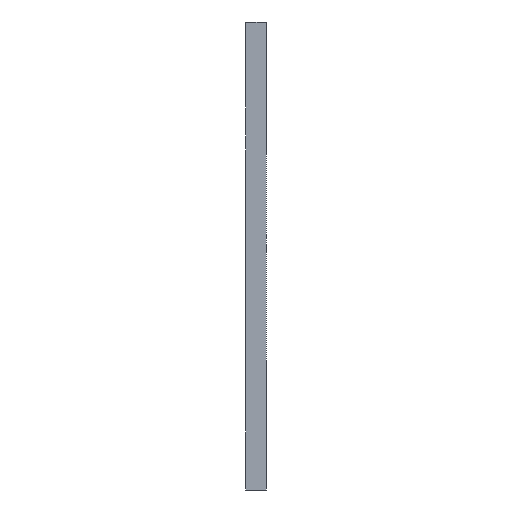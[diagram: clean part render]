
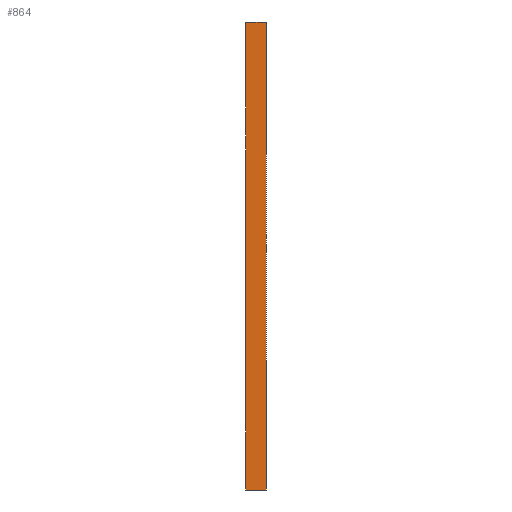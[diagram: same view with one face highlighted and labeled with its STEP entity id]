
A CAD part, left-side view. The second image highlights one B-rep face of the part: STEP entity #864.
In plain terms, the highlighted planar face has unit normal (-1, 0, 0).
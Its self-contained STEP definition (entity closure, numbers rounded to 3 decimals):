
#4 = VERTEX_POINT ( 'NONE', #998 ) ;
#16 = PLANE ( 'NONE',  #42 ) ;
#25 = DIRECTION ( 'NONE',  ( 0., 0., 1. ) ) ;
#42 = AXIS2_PLACEMENT_3D ( 'NONE', #361, #378, #25 ) ;
#85 = EDGE_CURVE ( 'NONE', #4, #1118, #742, .T. ) ;
#130 = EDGE_CURVE ( 'NONE', #415, #1118, #503, .T. ) ;
#135 = DIRECTION ( 'NONE',  ( 0., 0., 1. ) ) ;
#180 = CARTESIAN_POINT ( 'NONE',  ( -305.5, 0., -434. ) ) ;
#183 = VECTOR ( 'NONE', #1015, 1000. ) ;
#188 = LINE ( 'NONE', #543, #763 ) ;
#264 = CARTESIAN_POINT ( 'NONE',  ( -305.5, -20., -434. ) ) ;
#295 = EDGE_CURVE ( 'NONE', #357, #415, #526, .T. ) ;
#300 = ORIENTED_EDGE ( 'NONE', *, *, #130, .F. ) ;
#319 = ORIENTED_EDGE ( 'NONE', *, *, #85, .T. ) ;
#356 = CARTESIAN_POINT ( 'NONE',  ( -305.5, -20., -434. ) ) ;
#357 = VERTEX_POINT ( 'NONE', #356 ) ;
#361 = CARTESIAN_POINT ( 'NONE',  ( -305.5, -20., -434. ) ) ;
#374 = EDGE_CURVE ( 'NONE', #357, #4, #188, .T. ) ;
#378 = DIRECTION ( 'NONE',  ( -1., 0., 0. ) ) ;
#402 = CARTESIAN_POINT ( 'NONE',  ( -305.5, 0., -434. ) ) ;
#415 = VERTEX_POINT ( 'NONE', #180 ) ;
#503 = LINE ( 'NONE', #402, #924 ) ;
#526 = LINE ( 'NONE', #264, #1102 ) ;
#543 = CARTESIAN_POINT ( 'NONE',  ( -305.5, -20., -434. ) ) ;
#552 = ORIENTED_EDGE ( 'NONE', *, *, #295, .F. ) ;
#635 = FACE_OUTER_BOUND ( 'NONE', #1130, .T. ) ;
#726 = CARTESIAN_POINT ( 'NONE',  ( -305.5, 0., 30. ) ) ;
#742 = LINE ( 'NONE', #1086, #183 ) ;
#763 = VECTOR ( 'NONE', #796, 1000. ) ;
#790 = DIRECTION ( 'NONE',  ( 0., 1., 0. ) ) ;
#796 = DIRECTION ( 'NONE',  ( 0., 0., 1. ) ) ;
#850 = ORIENTED_EDGE ( 'NONE', *, *, #374, .T. ) ;
#864 = ADVANCED_FACE ( 'NONE', ( #635 ), #16, .T. ) ;
#924 = VECTOR ( 'NONE', #135, 1000. ) ;
#998 = CARTESIAN_POINT ( 'NONE',  ( -305.5, -20., 30. ) ) ;
#1015 = DIRECTION ( 'NONE',  ( 0., 1., 0. ) ) ;
#1086 = CARTESIAN_POINT ( 'NONE',  ( -305.5, -20., 30. ) ) ;
#1102 = VECTOR ( 'NONE', #790, 1000. ) ;
#1118 = VERTEX_POINT ( 'NONE', #726 ) ;
#1130 = EDGE_LOOP ( 'NONE', ( #300, #552, #850, #319 ) ) ;
